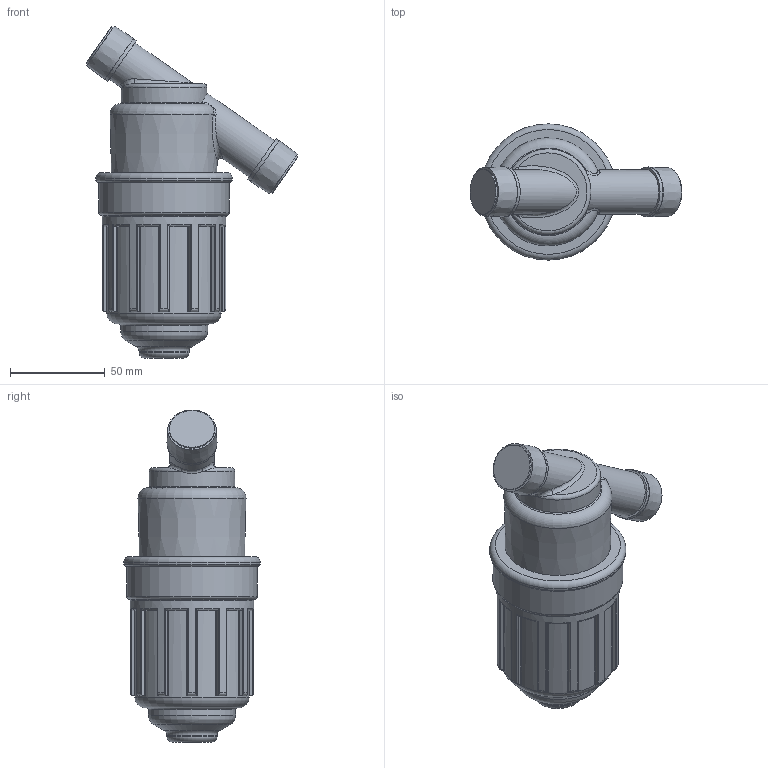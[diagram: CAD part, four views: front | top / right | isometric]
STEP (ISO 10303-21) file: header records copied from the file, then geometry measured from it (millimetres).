
FILE_DESCRIPTION( ( 'Unknown' ), '1' );
FILE_NAME( 'M:/Users/Roy/Dummy/0.75in Tag Line.stp', 'Unknown', ( 'Unknown' ), ( 'Unknown' ), 'PSStep 10.0', 'Unknown', ' ' );
FILE_SCHEMA( ( 'automotive_design' ) );
Length unit declared in the file: millimetre
Products named in the file (1): 1
Bounding box: 111.89 x 72 x 175.39 mm (x, y, z)
Volume: 424384.7 mm3; surface area: 40060.9 mm2
Topology: 1 solids, 1 shells, 170 faces, 464 edges, 305 vertices
Faces by surface type: cylinder 61, plane 61, torus 37, bspline 7, cone 3, sphere 1
Full cylindrical faces by diameter (mm): 23.6 x2, 23.691 x2, 26 x2, 26.44 x1, 45.2 x1, 46 x1, 60.5 x1, 65.373 x1, 69 x1, 72 x1
Entity records: 10622 total; most frequent: CARTESIAN_POINT 5242, ORIENTED_EDGE 848, DIRECTION 792, EDGE_CURVE 424, AXIS2_PLACEMENT_3D 324, VERTEX_POINT 292, EDGE_LOOP 206, FACE_OUTER_BOUND 194
